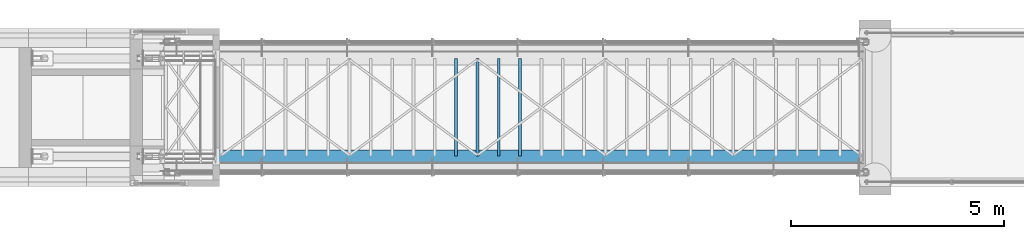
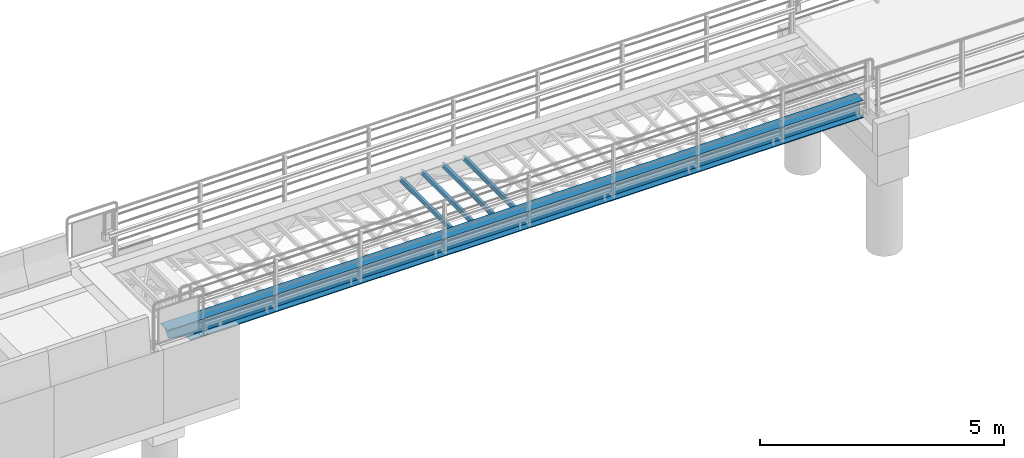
# One storey, part 9 of 31: 5 beams.
"""IFC2X3 building model written with IfcOpenShell, lengths in millimetres."""

from ifc_helpers import new_model, si_unit, frame, origin_with_axes, place, context, subcontext, project, spatial, faceted_brep, material, type_object, element, save


model = new_model("IFC2X3")

# Units and contexts
model_context = context("Model", 3, precision=1e-05, world=origin_with_axes())
body_context = subcontext(model_context, "Body", "Model", "MODEL_VIEW")
ifc_project = project(units=[si_unit("LENGTHUNIT", "METRE", prefix="MILLI"), si_unit("AREAUNIT", "SQUARE_METRE"), si_unit("VOLUMEUNIT", "CUBIC_METRE"), si_unit("MASSUNIT", "GRAM", prefix="KILO"), si_unit("TIMEUNIT", "SECOND"), si_unit("PLANEANGLEUNIT", "RADIAN"), si_unit("SOLIDANGLEUNIT", "STERADIAN"), si_unit("THERMODYNAMICTEMPERATUREUNIT", "DEGREE_CELSIUS"), si_unit("LUMINOUSINTENSITYUNIT", "LUMEN")], contexts=[model_context])

# Site, building, storey
site_placement = place(None, origin_with_axes())
site = spatial("IfcSite", under=ifc_project, at=site_placement, Name="Undefined", CompositionType="ELEMENT")
building_placement = place(site_placement, origin_with_axes())
building = spatial("IfcBuilding", under=site, at=building_placement, Name="Undefined", CompositionType="ELEMENT")
storey_placement = place(building_placement, origin_with_axes())
storey = spatial("IfcBuildingStorey", under=building, at=storey_placement, Name="Undefined", CompositionType="ELEMENT", Elevation=0.0)

# Beams
ifc_material = material(Name="STEEL/S355J2+N")
beam_type_1 = type_object("IfcBeamType", Name="IPE120", PredefinedType="NOTDEFINED")
for number, where, z_axis, x_axis in (
    (1, (11450.0, 5.75, -105.0), (0.0, 0.0, 1.0), (0.0, 1.0, 0.0)),
    (2, (10950.0, 5.75, -105.0), (0.0, 0.0, 1.0), (0.0, 1.0, 0.0)),
    (3, (10450.0, 5.75, -105.0), (0.0, 0.0, 1.0), (0.0, 1.0, 0.0)),
    (4, (9950.0, 5.75, -105.0), (0.0, 0.0, 1.0), (0.0, 1.0, 0.0)),
):
    element("IfcBeam", number, at=place(storey_placement, frame(where, z_axis=z_axis, x_axis=x_axis)), inside=storey, type_object=beam_type_1, material=ifc_material, Name="STÅLBJELKE", context=body_context, shape_type="Brep", body=[
        faceted_brep([(0.0, 32.0, -60.0), (0.0, 32.0, -53.699999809), (2288.5, 32.0, -53.699999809), (2288.5, 32.0, -60.0), (0.0, 2.2000000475, -53.699999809), (2288.5, 2.2000000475, -53.699999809), (0.0, 2.2000000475, 53.699999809), (2288.5, 2.2000000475, 53.699999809), (0.0, 32.0, 53.699999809), (2288.5, 32.0, 53.699999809), (0.0, 32.0, 60.0), (2288.5, 32.0, 60.0), (0.0, -32.0, 60.0), (2288.5, -32.0, 60.0), (0.0, -32.0, 53.699999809), (2288.5, -32.0, 53.699999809), (0.0, -2.2000000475, 53.699999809), (2288.5, -2.2000000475, 53.699999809), (0.0, -2.2000000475, -53.699999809), (2288.5, -2.2000000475, -53.699999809), (0.0, -32.0, -53.699999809), (2288.5, -32.0, -53.699999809), (0.0, -32.0, -60.0), (2288.5, -32.0, -60.0)], [[[0, 1, 2, 3]], [[1, 4, 5, 2]], [[4, 6, 7, 5]], [[6, 8, 9, 7]], [[8, 10, 11, 9]], [[10, 12, 13, 11]], [[12, 14, 15, 13]], [[14, 16, 17, 15]], [[16, 18, 19, 17]], [[18, 20, 21, 19]], [[20, 22, 23, 21]], [[22, 0, 3, 23]], [[5, 7, 9, 11, 13, 15, 17, 19, 21, 23, 3, 2]], [[22, 20, 18, 16, 14, 12, 10, 8, 6, 4, 1, 0]]]),
    ])
beam_type_2 = type_object("IfcBeamType", Name="HEA450", PredefinedType="NOTDEFINED")
beam_placement = place(storey_placement, frame((2700.0, 0.0, -220.0), z_axis=(0.0, 0.0, 1.0), x_axis=(1.0, 0.0, 0.0)))
element("IfcBeam", 5, at=beam_placement, inside=storey, type_object=beam_type_2, material=ifc_material, Name="STÅLBJELKE", context=body_context, shape_type="Brep", body=[
    faceted_brep([(16800.0, 5.75, -199.0), (16800.0, 150.0, -199.0), (848.105577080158, 150.0, -199.0), (848.105577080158, 5.75, -199.0), (16800.0, -150.0, -220.0), (16800.0, -150.0, -199.0), (848.105577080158, -150.0, -199.0), (849.999999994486, -150.0, -199.445728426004), (849.993362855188, -150.0, -220.0), (16800.0, 150.0, -220.0), (849.993362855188, 150.0, -220.0), (849.999999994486, 150.0, -199.445728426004), (16800.0, 5.75, 199.0), (16800.0, 150.0, 199.0), (16800.0, 150.0, 220.0), (16800.0, -150.0, 220.0), (16800.0, -150.0, 199.0), (16800.0, -5.75, 199.0), (16800.0, -5.75, -199.0), (848.105577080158, -5.75, -199.0), (415.82694794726, -5.75, -97.2915211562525), (415.82694794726, 5.75, -97.2915211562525), (327.160653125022, 5.75, 199.0), (327.160653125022, 150.0, 199.0), (320.876328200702, 150.0, 220.0), (320.876328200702, -150.0, 220.0), (327.160653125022, -150.0, 199.0), (327.160653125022, -5.75, 199.0)], [[[0, 1, 2, 3]], [[4, 5, 6, 7, 8]], [[9, 4, 8, 10]], [[7, 11, 10, 8]], [[1, 9, 10, 11, 2]], [[0, 12, 13, 14, 15, 16, 17, 18, 5, 4, 9, 1]], [[5, 18, 19, 6]], [[3, 2, 11, 7, 6, 19, 20, 21]], [[12, 0, 3, 21, 22]], [[13, 12, 22, 23]], [[14, 13, 23, 24]], [[15, 14, 24, 25]], [[16, 15, 25, 26]], [[17, 16, 26, 27]], [[19, 18, 17, 27, 20]], [[26, 25, 24, 23, 22, 21, 20, 27]]]),
])

save(model, "model.ifc")
